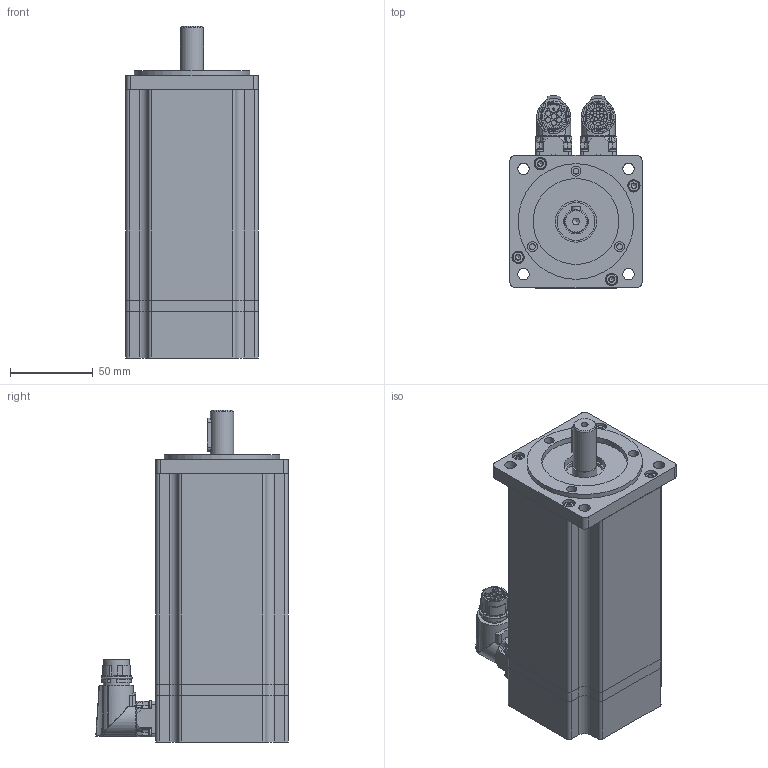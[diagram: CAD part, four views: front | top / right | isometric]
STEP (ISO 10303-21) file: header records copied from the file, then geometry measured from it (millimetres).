
FILE_DESCRIPTION(/* description */ (''),/* implementation_level */ '2;1');
FILE_NAME(/* name */ 'C:\Users\Public\Documents\Autodesk\Inventor LT 2014\Workspace\3D Sangalli Servomotori\DSM7\DSM7 - STEP\DSM7_3x_STEP\DSM7_32_x198.stp',/* time_stamp */ '2020-10-16T12:25:03+02:00',/* author */ ('marcor'),/* organization */ (''),/* preprocessor_version */ 'ST-DEVELOPER v15.2',/* originating_system */ 'Autodesk Inventor LT ',/* authorisation */ '');
FILE_SCHEMA (('AUTOMOTIVE_DESIGN { 1 0 10303 214 3 1 1 }'));
Products named in the file (1): DSM7_32_x198
Bounding box: 80 x 116.35 x 201.1 mm (x, y, z)
Volume: 1017349.8 mm3; surface area: 126882.3 mm2
Topology: 16 solids, 36 shells, 1536 faces, 3989 edges, 2600 vertices
Faces by surface type: plane 676, cylinder 540, cone 164, torus 96, bspline 52, sphere 8
Full cylindrical faces by diameter (mm): 1.3 x1, 2.013 x4, 2.1 x15, 2.224 x8, 2.5 x8, 2.7 x8, 3.2 x6, 3.242 x12, 3.5 x3, 4 x12, 4.134 x1, 4.5 x12, 4.8 x2, 5 x2, 6 x3, 7 x20, 7.5 x8, 11.7 x1, 13.4 x1, 14 x1, 14.2 x2, 14.95 x1, 15.2 x2, 15.54 x2, 16 x2, 16.8 x2, 17 x2, 19.7 x2, 23 x1, 25 x1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
Entity records: 50391 total; most frequent: CARTESIAN_POINT 13747, ORIENTED_EDGE 7190, DIRECTION 7098, EDGE_CURVE 3595, AXIS2_PLACEMENT_3D 2786, VERTEX_POINT 2493, EDGE_LOOP 1966, ADVANCED_FACE 1530
